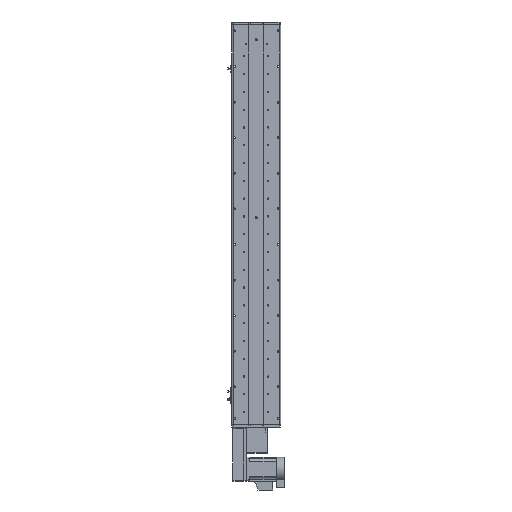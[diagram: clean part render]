
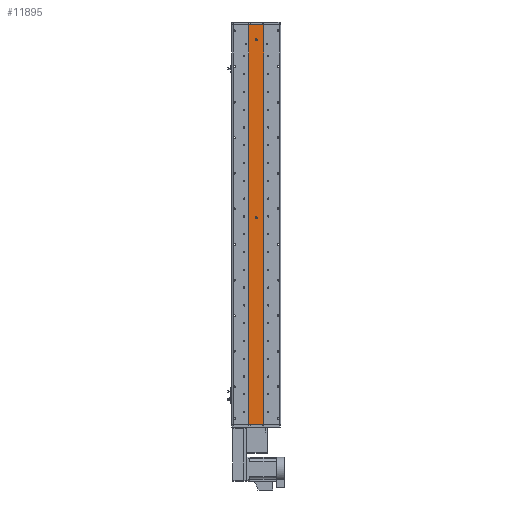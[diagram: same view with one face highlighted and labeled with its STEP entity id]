
A CAD part, front view. The second image highlights one B-rep face of the part: STEP entity #11895.
In plain terms, the highlighted planar face has unit normal (0, -1, 0).
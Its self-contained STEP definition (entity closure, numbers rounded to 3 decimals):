
#4 = VERTEX_POINT ( 'NONE', #62016 ) ;
#17 = AXIS2_PLACEMENT_3D ( 'NONE', #58386, #27858, #63516 ) ;
#147 = VERTEX_POINT ( 'NONE', #15780 ) ;
#804 = EDGE_CURVE ( 'NONE', #57573, #4, #15509, .T. ) ;
#2003 = VECTOR ( 'NONE', #13326, 1000. ) ;
#2672 = DIRECTION ( 'NONE',  ( 0., 0., -1. ) ) ;
#3069 = DIRECTION ( 'NONE',  ( 0., 0., -1. ) ) ;
#5326 = VECTOR ( 'NONE', #45035, 1000. ) ;
#7039 = PLANE ( 'NONE',  #23849 ) ;
#7538 = DIRECTION ( 'NONE',  ( 1., 0., 0. ) ) ;
#7920 = CARTESIAN_POINT ( 'NONE',  ( 25., 1., 673.5 ) ) ;
#8365 = CARTESIAN_POINT ( 'NONE',  ( -25., 1., 673.5 ) ) ;
#9340 = VECTOR ( 'NONE', #7538, 1000. ) ;
#11895 = ADVANCED_FACE ( 'NONE', ( #63991, #23322, #50426 ), #7039, .F. ) ;
#13094 = DIRECTION ( 'NONE',  ( 1., 0., 0. ) ) ;
#13326 = DIRECTION ( 'NONE',  ( 0., 0., -1. ) ) ;
#14434 = CIRCLE ( 'NONE', #17, 3. ) ;
#15125 = EDGE_CURVE ( 'NONE', #147, #22463, #15743, .T. ) ;
#15509 = CIRCLE ( 'NONE', #48843, 3. ) ;
#15625 = LINE ( 'NONE', #58975, #2003 ) ;
#15743 = CIRCLE ( 'NONE', #41800, 3. ) ;
#15751 = EDGE_CURVE ( 'NONE', #51248, #25931, #15625, .T. ) ;
#15780 = CARTESIAN_POINT ( 'NONE',  ( 0., 1., 620.5 ) ) ;
#16391 = ORIENTED_EDGE ( 'NONE', *, *, #36190, .F. ) ;
#17354 = DIRECTION ( 'NONE',  ( 0., 1., 0. ) ) ;
#17485 = ORIENTED_EDGE ( 'NONE', *, *, #15751, .T. ) ;
#18940 = LINE ( 'NONE', #65295, #5326 ) ;
#20987 = AXIS2_PLACEMENT_3D ( 'NONE', #64203, #33616, #3069 ) ;
#22249 = EDGE_LOOP ( 'NONE', ( #65473, #32262 ) ) ;
#22463 = VERTEX_POINT ( 'NONE', #55019 ) ;
#22921 = LINE ( 'NONE', #38058, #9340 ) ;
#23322 = FACE_BOUND ( 'NONE', #22249, .T. ) ;
#23849 = AXIS2_PLACEMENT_3D ( 'NONE', #47837, #17354, #52982 ) ;
#25931 = VERTEX_POINT ( 'NONE', #50427 ) ;
#26353 = EDGE_LOOP ( 'NONE', ( #36367, #16391, #49809, #17485 ) ) ;
#26458 = CIRCLE ( 'NONE', #20987, 3. ) ;
#27342 = VECTOR ( 'NONE', #13094, 1000. ) ;
#27858 = DIRECTION ( 'NONE',  ( 0., -1., 0. ) ) ;
#30319 = DIRECTION ( 'NONE',  ( 0., -1., 0. ) ) ;
#32262 = ORIENTED_EDGE ( 'NONE', *, *, #52268, .F. ) ;
#33184 = DIRECTION ( 'NONE',  ( 0., -1., 0. ) ) ;
#33616 = DIRECTION ( 'NONE',  ( 0., -1., 0. ) ) ;
#34680 = VERTEX_POINT ( 'NONE', #62787 ) ;
#34767 = CARTESIAN_POINT ( 'NONE',  ( 0., 1., 20.5 ) ) ;
#36190 = EDGE_CURVE ( 'NONE', #56828, #34680, #18940, .T. ) ;
#36367 = ORIENTED_EDGE ( 'NONE', *, *, #53941, .T. ) ;
#38058 = CARTESIAN_POINT ( 'NONE',  ( 25., 1., -673.5 ) ) ;
#41800 = AXIS2_PLACEMENT_3D ( 'NONE', #63762, #33184, #2672 ) ;
#42496 = CARTESIAN_POINT ( 'NONE',  ( 25., 1., 673.5 ) ) ;
#43291 = ORIENTED_EDGE ( 'NONE', *, *, #59209, .F. ) ;
#44953 = EDGE_CURVE ( 'NONE', #51248, #56828, #54450, .T. ) ;
#45035 = DIRECTION ( 'NONE',  ( 0., 0., -1. ) ) ;
#47837 = CARTESIAN_POINT ( 'NONE',  ( 25., 1., 673.5 ) ) ;
#48843 = AXIS2_PLACEMENT_3D ( 'NONE', #60821, #30319, #65954 ) ;
#49809 = ORIENTED_EDGE ( 'NONE', *, *, #44953, .F. ) ;
#50426 = FACE_OUTER_BOUND ( 'NONE', #26353, .T. ) ;
#50427 = CARTESIAN_POINT ( 'NONE',  ( -25., 1., -673.5 ) ) ;
#51248 = VERTEX_POINT ( 'NONE', #8365 ) ;
#52268 = EDGE_CURVE ( 'NONE', #22463, #147, #14434, .T. ) ;
#52982 = DIRECTION ( 'NONE',  ( 0., 0., 1. ) ) ;
#53941 = EDGE_CURVE ( 'NONE', #25931, #34680, #22921, .T. ) ;
#54450 = LINE ( 'NONE', #7920, #27342 ) ;
#55019 = CARTESIAN_POINT ( 'NONE',  ( 0., 1., 626.5 ) ) ;
#56828 = VERTEX_POINT ( 'NONE', #42496 ) ;
#57573 = VERTEX_POINT ( 'NONE', #34767 ) ;
#58386 = CARTESIAN_POINT ( 'NONE',  ( 0., 1., 623.5 ) ) ;
#58975 = CARTESIAN_POINT ( 'NONE',  ( -25., 1., 673.5 ) ) ;
#59209 = EDGE_CURVE ( 'NONE', #4, #57573, #26458, .T. ) ;
#60156 = EDGE_LOOP ( 'NONE', ( #65923, #43291 ) ) ;
#60821 = CARTESIAN_POINT ( 'NONE',  ( 0., 1., 23.5 ) ) ;
#62016 = CARTESIAN_POINT ( 'NONE',  ( 0., 1., 26.5 ) ) ;
#62787 = CARTESIAN_POINT ( 'NONE',  ( 25., 1., -673.5 ) ) ;
#63516 = DIRECTION ( 'NONE',  ( 0., 0., -1. ) ) ;
#63762 = CARTESIAN_POINT ( 'NONE',  ( 0., 1., 623.5 ) ) ;
#63991 = FACE_BOUND ( 'NONE', #60156, .T. ) ;
#64203 = CARTESIAN_POINT ( 'NONE',  ( 0., 1., 23.5 ) ) ;
#65295 = CARTESIAN_POINT ( 'NONE',  ( 25., 1., 673.5 ) ) ;
#65473 = ORIENTED_EDGE ( 'NONE', *, *, #15125, .F. ) ;
#65923 = ORIENTED_EDGE ( 'NONE', *, *, #804, .F. ) ;
#65954 = DIRECTION ( 'NONE',  ( 0., 0., -1. ) ) ;
